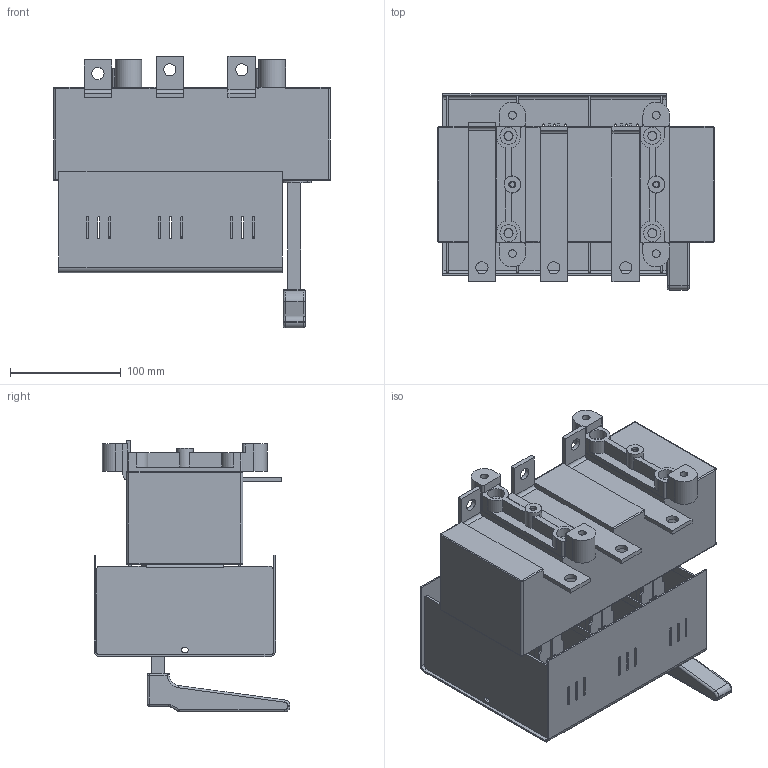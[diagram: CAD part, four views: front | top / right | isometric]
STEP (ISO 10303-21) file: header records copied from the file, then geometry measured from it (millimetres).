
FILE_DESCRIPTION(/* description */ (''),/* implementation_level */ '2;1');
FILE_NAME(/* name */ 'RAB 1 P3 B.stp',/* time_stamp */ '2021-08-19T12:49:48+02:00',/* author */ (''),/* organization */ (''),/* preprocessor_version */ 'ST-DEVELOPER v18.1',/* originating_system */ 'SIEMENS PLM Software NX 1965',/* authorisation */ '');
FILE_SCHEMA (('AUTOMOTIVE_DESIGN { 1 0 10303 214 3 1 1 1 }'));
Length unit declared in the file: millimetre
Products named in the file (1): RAB 1 P3 B_stp
Bounding box: 250 x 177 x 245.69 mm (x, y, z)
Volume: 2503500.2 mm3; surface area: 439219.8 mm2
Topology: 1 solids, 1 shells, 1042 faces, 2867 edges, 1854 vertices
Faces by surface type: plane 661, cylinder 359, torus 13, sphere 6, bspline 3
Full cylindrical faces by diameter (mm): 4.8 x2, 6.2 x2, 7 x4, 8.2 x4, 11 x6, 14 x4, 15 x2, 15.5 x4
Entity records: 33100 total; most frequent: CARTESIAN_POINT 5819, DIRECTION 5659, ORIENTED_EDGE 5658, EDGE_CURVE 2829, LINE 2063, VECTOR 2063, VERTEX_POINT 1850, AXIS2_PLACEMENT_3D 1798
